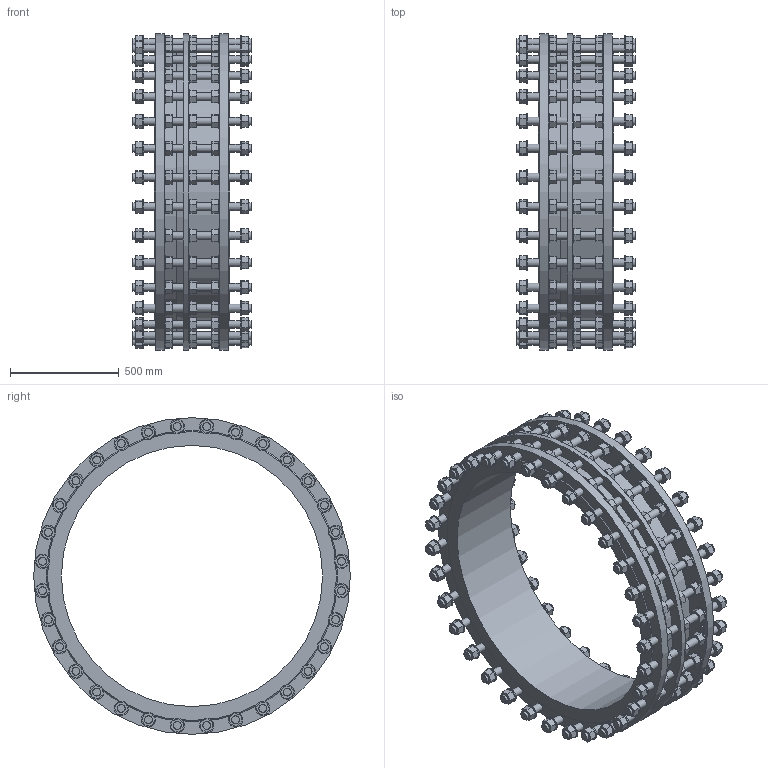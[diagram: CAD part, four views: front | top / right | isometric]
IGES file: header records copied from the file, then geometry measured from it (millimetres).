
Start section: SolidWorks IGES file using analytic representation for surfaces
Global section: file name: \\avksan2\techshare\PBM outline export from Enovia\O_265_911_DN1200_0XXXXX01_L=345_REV01.igs; native system: SolidWorks 2022; preprocessor: SolidWorks 2022; author: pbm; date: 241212.093758; units: millimetre
Bounding box: 545 x 1455 x 1455 mm (x, y, z)
Surface area: 7685027.4 mm2 (no closed solid volume)
Topology: 0 solids, 0 shells, 1819 faces, 7916 edges, 7555 vertices
Faces by surface type: bspline 1456, revolution 363
